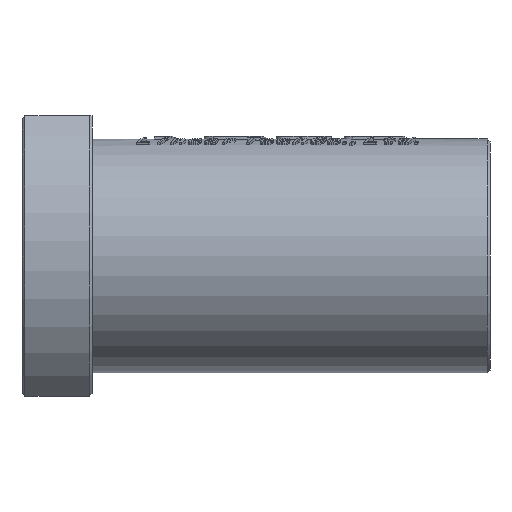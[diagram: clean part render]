
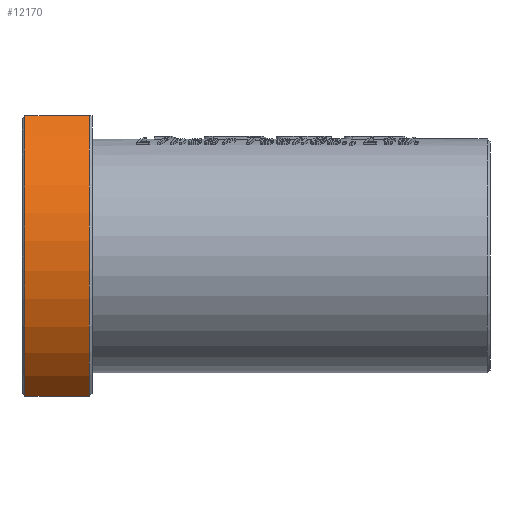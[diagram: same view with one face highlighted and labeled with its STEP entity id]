
A CAD part, front view. The second image highlights one B-rep face of the part: STEP entity #12170.
In plain terms, the highlighted cylindrical face has radius 31 mm (diameter 62 mm), a partial arc.
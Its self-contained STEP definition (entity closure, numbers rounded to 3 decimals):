
#686 = ORIENTED_EDGE ( 'NONE', *, *, #20132, .F. ) ;
#1300 = CARTESIAN_POINT ( 'NONE',  ( 0.5, -19.621, 24. ) ) ;
#2588 = CARTESIAN_POINT ( 'NONE',  ( 0., 0., 0. ) ) ;
#2905 = AXIS2_PLACEMENT_3D ( 'NONE', #10121, #29250, #16843 ) ;
#3017 = DIRECTION ( 'NONE',  ( 0., 0., -1. ) ) ;
#3194 = CARTESIAN_POINT ( 'NONE',  ( 11.5, -19.621, 24. ) ) ;
#3399 = AXIS2_PLACEMENT_3D ( 'NONE', #2588, #23984, #28703 ) ;
#5366 = DIRECTION ( 'NONE',  ( 1., 0., 0. ) ) ;
#8229 = EDGE_CURVE ( 'NONE', #21444, #9760, #13937, .T. ) ;
#8372 = CIRCLE ( 'NONE', #2905, 31. ) ;
#9161 = CYLINDRICAL_SURFACE ( 'NONE', #3399, 31. ) ;
#9760 = VERTEX_POINT ( 'NONE', #3194 ) ;
#10121 = CARTESIAN_POINT ( 'NONE',  ( 11.5, 0., 0. ) ) ;
#10767 = ORIENTED_EDGE ( 'NONE', *, *, #12795, .T. ) ;
#11395 = LINE ( 'NONE', #23599, #21706 ) ;
#12170 = ADVANCED_FACE ( 'NONE', ( #26167 ), #9161, .T. ) ;
#12235 = VERTEX_POINT ( 'NONE', #13625 ) ;
#12546 = CARTESIAN_POINT ( 'NONE',  ( 0.5, -19.621, -24. ) ) ;
#12795 = EDGE_CURVE ( 'NONE', #12235, #9760, #8372, .T. ) ;
#13625 = CARTESIAN_POINT ( 'NONE',  ( 11.5, -19.621, -24. ) ) ;
#13937 = LINE ( 'NONE', #21269, #30385 ) ;
#16843 = DIRECTION ( 'NONE',  ( 0., 0., 1. ) ) ;
#17867 = EDGE_CURVE ( 'NONE', #21444, #23062, #26407, .T. ) ;
#19170 = EDGE_LOOP ( 'NONE', ( #686, #10767, #24080, #26951 ) ) ;
#20132 = EDGE_CURVE ( 'NONE', #12235, #23062, #11395, .T. ) ;
#21269 = CARTESIAN_POINT ( 'NONE',  ( 0., -19.621, 24. ) ) ;
#21444 = VERTEX_POINT ( 'NONE', #1300 ) ;
#21706 = VECTOR ( 'NONE', #28323, 1000. ) ;
#23062 = VERTEX_POINT ( 'NONE', #12546 ) ;
#23599 = CARTESIAN_POINT ( 'NONE',  ( 0., -19.621, -24. ) ) ;
#23984 = DIRECTION ( 'NONE',  ( -1., 0., 0. ) ) ;
#24080 = ORIENTED_EDGE ( 'NONE', *, *, #8229, .F. ) ;
#26167 = FACE_OUTER_BOUND ( 'NONE', #19170, .T. ) ;
#26407 = CIRCLE ( 'NONE', #27421, 31. ) ;
#26951 = ORIENTED_EDGE ( 'NONE', *, *, #17867, .T. ) ;
#27421 = AXIS2_PLACEMENT_3D ( 'NONE', #28977, #5366, #3017 ) ;
#28323 = DIRECTION ( 'NONE',  ( -1., 0., 0. ) ) ;
#28703 = DIRECTION ( 'NONE',  ( 0., 0., 1. ) ) ;
#28817 = DIRECTION ( 'NONE',  ( 1., 0., 0. ) ) ;
#28977 = CARTESIAN_POINT ( 'NONE',  ( 0.5, 0., 0. ) ) ;
#29250 = DIRECTION ( 'NONE',  ( -1., 0., 0. ) ) ;
#30385 = VECTOR ( 'NONE', #28817, 1000. ) ;
